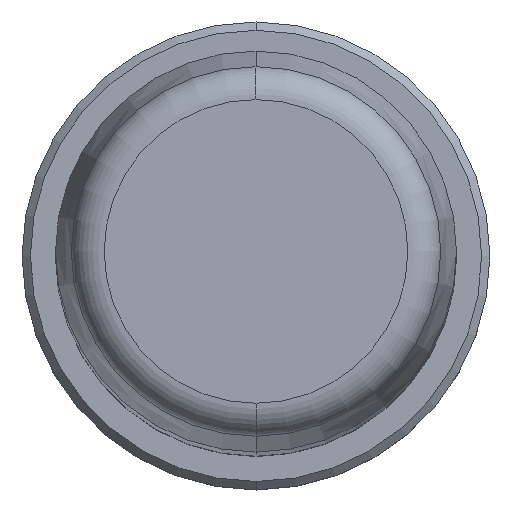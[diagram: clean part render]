
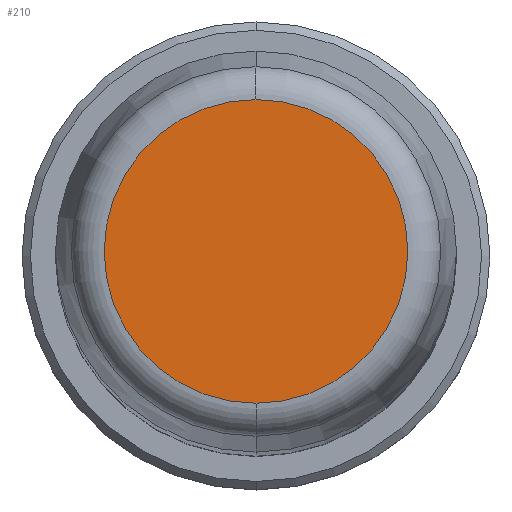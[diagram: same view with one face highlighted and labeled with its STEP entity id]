
A CAD part, top view. The second image highlights one B-rep face of the part: STEP entity #210.
In plain terms, the highlighted planar face has unit normal (0, 0, 1).
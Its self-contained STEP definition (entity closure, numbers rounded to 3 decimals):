
#1=CARTESIAN_POINT('',(0.,0.,160.));
#2=DIRECTION('',(0.,0.,-1.));
#3=DIRECTION('',(0.,-1.,0.));
#4=AXIS2_PLACEMENT_3D('',#1,#2,#3);
#6=CARTESIAN_POINT('',(0.,0.,160.));
#7=DIRECTION('',(0.,0.,-1.));
#8=DIRECTION('',(0.,1.,0.));
#9=AXIS2_PLACEMENT_3D('',#6,#7,#8);
#183=CARTESIAN_POINT('',(0.,-9.088,160.));
#184=CARTESIAN_POINT('',(0.,9.088,160.));
#185=VERTEX_POINT('',#183);
#186=VERTEX_POINT('',#184);
#199=CARTESIAN_POINT('',(0.,0.,160.));
#200=DIRECTION('',(0.,0.,1.));
#201=DIRECTION('',(0.,-1.,0.));
#202=AXIS2_PLACEMENT_3D('',#199,#200,#201);
#203=PLANE('',#202);
#205=ORIENTED_EDGE('',*,*,#204,.T.);
#207=ORIENTED_EDGE('',*,*,#206,.T.);
#208=EDGE_LOOP('',(#205,#207));
#209=FACE_OUTER_BOUND('',#208,.F.);
#210=ADVANCED_FACE('',(#209),#203,.T.);
#5=CIRCLE('',#4,9.088);
#10=CIRCLE('',#9,9.088);
#204=EDGE_CURVE('',#185,#186,#5,.T.);
#206=EDGE_CURVE('',#186,#185,#10,.T.);
